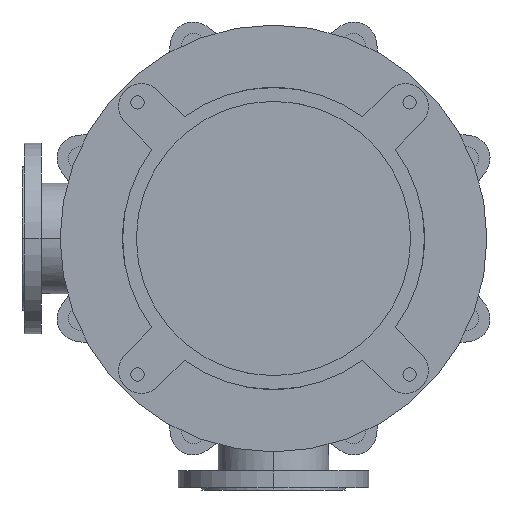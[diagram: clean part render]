
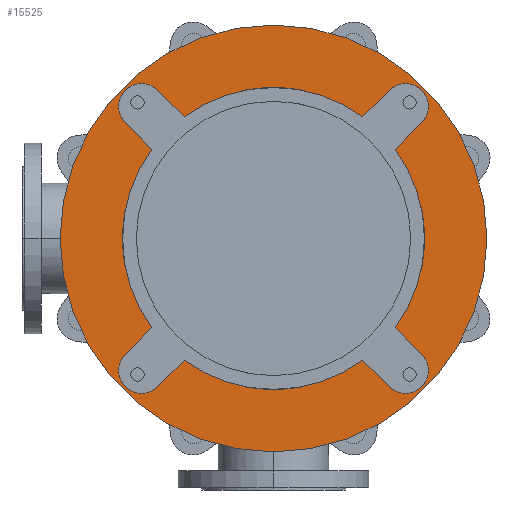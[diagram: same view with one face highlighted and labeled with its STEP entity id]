
A CAD part, front view. The second image highlights one B-rep face of the part: STEP entity #15525.
In plain terms, the highlighted planar face has unit normal (0, -1, 0).
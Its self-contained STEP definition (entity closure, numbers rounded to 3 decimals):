
#4326=CARTESIAN_POINT('',(0.,-25.,0.));
#4327=DIRECTION('',(0.,1.,0.));
#4328=DIRECTION('',(0.592,0.,-0.806));
#4329=AXIS2_PLACEMENT_3D('',#4326,#4327,#4328);
#4344=CARTESIAN_POINT('',(0.,-25.,0.));
#4345=DIRECTION('',(0.,1.,0.));
#4346=DIRECTION('',(0.806,0.,0.592));
#4347=AXIS2_PLACEMENT_3D('',#4344,#4345,#4346);
#4371=CARTESIAN_POINT('',(0.,-25.,0.));
#4372=DIRECTION('',(0.,1.,0.));
#4373=DIRECTION('',(-0.806,0.,-0.592));
#4374=AXIS2_PLACEMENT_3D('',#4371,#4372,#4373);
#4380=CARTESIAN_POINT('',(0.,-25.,0.));
#4381=DIRECTION('',(0.,1.,0.));
#4382=DIRECTION('',(-0.592,0.,0.806));
#4383=AXIS2_PLACEMENT_3D('',#4380,#4381,#4382);
#4558=CARTESIAN_POINT('',(0.,-25.,0.));
#4559=DIRECTION('',(0.,-1.,0.));
#4560=DIRECTION('',(-1.,0.,0.));
#4561=AXIS2_PLACEMENT_3D('',#4558,#4559,#4560);
#4563=CARTESIAN_POINT('',(0.,-25.,0.));
#4564=DIRECTION('',(0.,1.,0.));
#4565=DIRECTION('',(-1.,0.,0.));
#4566=AXIS2_PLACEMENT_3D('',#4563,#4564,#4565);
#4568=CARTESIAN_POINT('',(-173.241,-25.,173.241));
#4569=DIRECTION('',(0.,-1.,0.));
#4570=DIRECTION('',(0.707,0.,0.707));
#4571=AXIS2_PLACEMENT_3D('',#4568,#4569,#4570);
#4573=DIRECTION('',(0.707,0.,-0.707));
#4574=VECTOR('',#4573,49.286);
#4575=CARTESIAN_POINT('',(-194.454,-25.,152.028));
#4576=LINE('',#4575,#4574);
#4577=DIRECTION('',(-0.707,0.,-0.707));
#4578=VECTOR('',#4577,49.286);
#4579=CARTESIAN_POINT('',(-159.604,-25.,-117.178));
#4580=LINE('',#4579,#4578);
#4581=CARTESIAN_POINT('',(-173.241,-25.,-173.241));
#4582=DIRECTION('',(0.,-1.,0.));
#4583=DIRECTION('',(-0.707,0.,0.707));
#4584=AXIS2_PLACEMENT_3D('',#4581,#4582,#4583);
#4586=DIRECTION('',(0.707,0.,0.707));
#4587=VECTOR('',#4586,49.286);
#4588=CARTESIAN_POINT('',(-152.028,-25.,-194.454));
#4589=LINE('',#4588,#4587);
#4590=DIRECTION('',(0.707,0.,-0.707));
#4591=VECTOR('',#4590,49.286);
#4592=CARTESIAN_POINT('',(117.178,-25.,-159.604));
#4593=LINE('',#4592,#4591);
#4594=CARTESIAN_POINT('',(173.241,-25.,-173.241));
#4595=DIRECTION('',(0.,-1.,0.));
#4596=DIRECTION('',(-0.707,0.,-0.707));
#4597=AXIS2_PLACEMENT_3D('',#4594,#4595,#4596);
#4599=DIRECTION('',(-0.707,0.,0.707));
#4600=VECTOR('',#4599,49.286);
#4601=CARTESIAN_POINT('',(194.454,-25.,-152.028));
#4602=LINE('',#4601,#4600);
#4603=DIRECTION('',(0.707,0.,0.707));
#4604=VECTOR('',#4603,49.286);
#4605=CARTESIAN_POINT('',(159.604,-25.,117.178));
#4606=LINE('',#4605,#4604);
#4607=CARTESIAN_POINT('',(173.241,-25.,173.241));
#4608=DIRECTION('',(0.,-1.,0.));
#4609=DIRECTION('',(0.707,0.,-0.707));
#4610=AXIS2_PLACEMENT_3D('',#4607,#4608,#4609);
#4612=DIRECTION('',(-0.707,0.,-0.707));
#4613=VECTOR('',#4612,49.286);
#4614=CARTESIAN_POINT('',(152.028,-25.,194.454));
#4615=LINE('',#4614,#4613);
#4616=DIRECTION('',(-0.707,0.,0.707));
#4617=VECTOR('',#4616,49.286);
#4618=CARTESIAN_POINT('',(-117.178,-25.,159.604));
#4619=LINE('',#4618,#4617);
#8399=CARTESIAN_POINT('',(-280.,-25.,0.));
#8400=CARTESIAN_POINT('',(280.,-25.,0.));
#8401=VERTEX_POINT('',#8399);
#8402=VERTEX_POINT('',#8400);
#8423=CARTESIAN_POINT('',(-194.454,-25.,-152.028));
#8424=CARTESIAN_POINT('',(-152.028,-25.,-194.454));
#8425=VERTEX_POINT('',#8423);
#8426=VERTEX_POINT('',#8424);
#8427=CARTESIAN_POINT('',(-117.178,-25.,-159.604));
#8428=VERTEX_POINT('',#8427);
#8429=CARTESIAN_POINT('',(-159.604,-25.,-117.178));
#8430=VERTEX_POINT('',#8429);
#8439=CARTESIAN_POINT('',(152.028,-25.,-194.454));
#8440=CARTESIAN_POINT('',(194.454,-25.,-152.028));
#8441=VERTEX_POINT('',#8439);
#8442=VERTEX_POINT('',#8440);
#8443=CARTESIAN_POINT('',(159.604,-25.,-117.178));
#8444=VERTEX_POINT('',#8443);
#8445=CARTESIAN_POINT('',(117.178,-25.,-159.604));
#8446=VERTEX_POINT('',#8445);
#8455=CARTESIAN_POINT('',(194.454,-25.,152.028));
#8456=CARTESIAN_POINT('',(152.028,-25.,194.454));
#8457=VERTEX_POINT('',#8455);
#8458=VERTEX_POINT('',#8456);
#8459=CARTESIAN_POINT('',(117.178,-25.,159.604));
#8460=VERTEX_POINT('',#8459);
#8461=CARTESIAN_POINT('',(159.604,-25.,117.178));
#8462=VERTEX_POINT('',#8461);
#8471=CARTESIAN_POINT('',(-152.028,-25.,194.454));
#8472=CARTESIAN_POINT('',(-194.454,-25.,152.028));
#8473=VERTEX_POINT('',#8471);
#8474=VERTEX_POINT('',#8472);
#8475=CARTESIAN_POINT('',(-159.604,-25.,117.178));
#8476=VERTEX_POINT('',#8475);
#8477=CARTESIAN_POINT('',(-117.178,-25.,159.604));
#8478=VERTEX_POINT('',#8477);
#15485=CARTESIAN_POINT('',(0.,-25.,0.));
#15486=DIRECTION('',(0.,-1.,0.));
#15487=DIRECTION('',(-1.,0.,0.));
#15488=AXIS2_PLACEMENT_3D('',#15485,#15486,#15487);
#15489=PLANE('',#15488);
#15491=ORIENTED_EDGE('',*,*,#15490,.F.);
#15493=ORIENTED_EDGE('',*,*,#15492,.T.);
#15494=EDGE_LOOP('',(#15491,#15493));
#15495=FACE_OUTER_BOUND('',#15494,.F.);
#15497=ORIENTED_EDGE('',*,*,#15496,.T.);
#15499=ORIENTED_EDGE('',*,*,#15498,.T.);
#15500=ORIENTED_EDGE('',*,*,#15438,.F.);
#15502=ORIENTED_EDGE('',*,*,#15501,.T.);
#15504=ORIENTED_EDGE('',*,*,#15503,.T.);
#15506=ORIENTED_EDGE('',*,*,#15505,.T.);
#15507=ORIENTED_EDGE('',*,*,#15391,.F.);
#15508=ORIENTED_EDGE('',*,*,#15475,.T.);
#15510=ORIENTED_EDGE('',*,*,#15509,.T.);
#15512=ORIENTED_EDGE('',*,*,#15511,.T.);
#15513=ORIENTED_EDGE('',*,*,#15412,.F.);
#15515=ORIENTED_EDGE('',*,*,#15514,.T.);
#15517=ORIENTED_EDGE('',*,*,#15516,.T.);
#15519=ORIENTED_EDGE('',*,*,#15518,.T.);
#15520=ORIENTED_EDGE('',*,*,#15456,.F.);
#15522=ORIENTED_EDGE('',*,*,#15521,.T.);
#15523=EDGE_LOOP('',(#15497,#15499,#15500,#15502,#15504,#15506,#15507,#15508,
#15510,#15512,#15513,#15515,#15517,#15519,#15520,#15522));
#15524=FACE_BOUND('',#15523,.F.);
#15525=ADVANCED_FACE('',(#15495,#15524),#15489,.T.);
#4330=CIRCLE('',#4329,198.);
#4348=CIRCLE('',#4347,198.);
#4375=CIRCLE('',#4374,198.);
#4384=CIRCLE('',#4383,198.);
#4562=CIRCLE('',#4561,280.);
#4567=CIRCLE('',#4566,280.);
#4572=CIRCLE('',#4571,30.);
#4585=CIRCLE('',#4584,30.);
#4598=CIRCLE('',#4597,30.);
#4611=CIRCLE('',#4610,30.);
#15391=EDGE_CURVE('',#8446,#8428,#4330,.T.);
#15412=EDGE_CURVE('',#8462,#8444,#4348,.T.);
#15438=EDGE_CURVE('',#8430,#8476,#4375,.T.);
#15456=EDGE_CURVE('',#8478,#8460,#4384,.T.);
#15475=EDGE_CURVE('',#8446,#8441,#4593,.T.);
#15490=EDGE_CURVE('',#8401,#8402,#4562,.T.);
#15492=EDGE_CURVE('',#8401,#8402,#4567,.T.);
#15496=EDGE_CURVE('',#8473,#8474,#4572,.T.);
#15498=EDGE_CURVE('',#8474,#8476,#4576,.T.);
#15501=EDGE_CURVE('',#8430,#8425,#4580,.T.);
#15503=EDGE_CURVE('',#8425,#8426,#4585,.T.);
#15505=EDGE_CURVE('',#8426,#8428,#4589,.T.);
#15509=EDGE_CURVE('',#8441,#8442,#4598,.T.);
#15511=EDGE_CURVE('',#8442,#8444,#4602,.T.);
#15514=EDGE_CURVE('',#8462,#8457,#4606,.T.);
#15516=EDGE_CURVE('',#8457,#8458,#4611,.T.);
#15518=EDGE_CURVE('',#8458,#8460,#4615,.T.);
#15521=EDGE_CURVE('',#8478,#8473,#4619,.T.);
